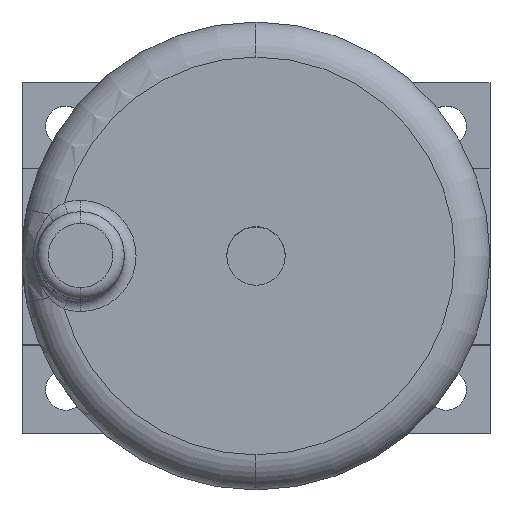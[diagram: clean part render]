
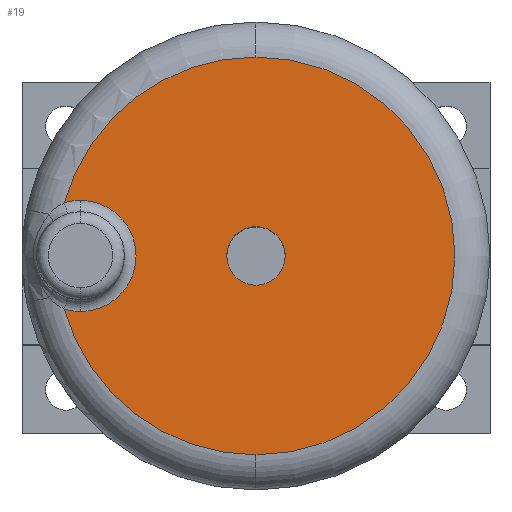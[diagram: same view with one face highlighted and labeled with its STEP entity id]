
A CAD part, top view. The second image highlights one B-rep face of the part: STEP entity #19.
In plain terms, the highlighted planar face has unit normal (0, 0, 1) as drawn and (1, 0, 0) by its records, which use the part's own axes.
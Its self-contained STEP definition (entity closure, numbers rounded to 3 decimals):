
#19 = ADVANCED_FACE ( 'NONE', ( #1028, #1943 ), #2560, .F. ) ;
#21 = DIRECTION ( 'NONE',  ( 0., 0., 1. ) ) ;
#32 = CARTESIAN_POINT ( 'NONE',  ( 46., 30., 0. ) ) ;
#112 = CARTESIAN_POINT ( 'NONE',  ( 46., 0., 0. ) ) ;
#139 = CARTESIAN_POINT ( 'NONE',  ( 46., 30., 0. ) ) ;
#198 = DIRECTION ( 'NONE',  ( 0., 0., 1. ) ) ;
#232 = DIRECTION ( 'NONE',  ( 1., 0., 0. ) ) ;
#351 = DIRECTION ( 'NONE',  ( -1., 0., 0. ) ) ;
#381 = DIRECTION ( 'NONE',  ( 0., 0., 1. ) ) ;
#405 = ORIENTED_EDGE ( 'NONE', *, *, #2558, .T. ) ;
#570 = ORIENTED_EDGE ( 'NONE', *, *, #1377, .F. ) ;
#618 = CARTESIAN_POINT ( 'NONE',  ( 46., 0., 0. ) ) ;
#645 = DIRECTION ( 'NONE',  ( -1., 0., 0. ) ) ;
#653 = DIRECTION ( 'NONE',  ( 1., 0., 0. ) ) ;
#671 = DIRECTION ( 'NONE',  ( 1., 0., 0. ) ) ;
#718 = EDGE_CURVE ( 'NONE', #2025, #2549, #2645, .T. ) ;
#729 = VERTEX_POINT ( 'NONE', #1030 ) ;
#831 = AXIS2_PLACEMENT_3D ( 'NONE', #32, #2473, #1489 ) ;
#856 = EDGE_LOOP ( 'NONE', ( #570, #1089 ) ) ;
#879 = CIRCLE ( 'NONE', #2131, 5. ) ;
#916 = CIRCLE ( 'NONE', #1528, 9.5 ) ;
#981 = AXIS2_PLACEMENT_3D ( 'NONE', #112, #351, #2070 ) ;
#996 = CARTESIAN_POINT ( 'NONE',  ( 46., 30., 9.5 ) ) ;
#1028 = FACE_OUTER_BOUND ( 'NONE', #2351, .T. ) ;
#1030 = CARTESIAN_POINT ( 'NONE',  ( 46., 32.763, 9.089 ) ) ;
#1089 = ORIENTED_EDGE ( 'NONE', *, *, #2999, .F. ) ;
#1094 = CARTESIAN_POINT ( 'NONE',  ( 46., 0., 5. ) ) ;
#1114 = CARTESIAN_POINT ( 'NONE',  ( 46., 0., 0. ) ) ;
#1116 = CIRCLE ( 'NONE', #1915, 9.5 ) ;
#1144 = AXIS2_PLACEMENT_3D ( 'NONE', #2620, #671, #2369 ) ;
#1156 = EDGE_CURVE ( 'NONE', #2987, #2646, #1690, .T. ) ;
#1198 = AXIS2_PLACEMENT_3D ( 'NONE', #1114, #2325, #2086 ) ;
#1336 = CARTESIAN_POINT ( 'NONE',  ( 46., 0., -5. ) ) ;
#1377 = EDGE_CURVE ( 'NONE', #2777, #1863, #879, .T. ) ;
#1399 = ORIENTED_EDGE ( 'NONE', *, *, #718, .T. ) ;
#1489 = DIRECTION ( 'NONE',  ( 0., 0., 1. ) ) ;
#1490 = DIRECTION ( 'NONE',  ( -1., 0., 0. ) ) ;
#1528 = AXIS2_PLACEMENT_3D ( 'NONE', #139, #645, #381 ) ;
#1572 = CARTESIAN_POINT ( 'NONE',  ( 46., 0., -34. ) ) ;
#1690 = CIRCLE ( 'NONE', #1144, 34. ) ;
#1863 = VERTEX_POINT ( 'NONE', #1094 ) ;
#1915 = AXIS2_PLACEMENT_3D ( 'NONE', #2930, #1490, #21 ) ;
#1943 = FACE_BOUND ( 'NONE', #856, .T. ) ;
#2025 = VERTEX_POINT ( 'NONE', #2905 ) ;
#2070 = DIRECTION ( 'NONE',  ( 0., 0., 1. ) ) ;
#2086 = DIRECTION ( 'NONE',  ( 0., 0., -1. ) ) ;
#2094 = ORIENTED_EDGE ( 'NONE', *, *, #2366, .T. ) ;
#2131 = AXIS2_PLACEMENT_3D ( 'NONE', #2674, #232, #2194 ) ;
#2150 = CARTESIAN_POINT ( 'NONE',  ( 46., 0., 34. ) ) ;
#2154 = ORIENTED_EDGE ( 'NONE', *, *, #2304, .T. ) ;
#2179 = VERTEX_POINT ( 'NONE', #2150 ) ;
#2194 = DIRECTION ( 'NONE',  ( 0., 0., -1. ) ) ;
#2229 = CIRCLE ( 'NONE', #2801, 34. ) ;
#2272 = EDGE_CURVE ( 'NONE', #2179, #2987, #2229, .T. ) ;
#2304 = EDGE_CURVE ( 'NONE', #2646, #2025, #916, .T. ) ;
#2325 = DIRECTION ( 'NONE',  ( 1., 0., 0. ) ) ;
#2351 = EDGE_LOOP ( 'NONE', ( #2094, #2675, #2642, #2154, #1399, #405 ) ) ;
#2366 = EDGE_CURVE ( 'NONE', #729, #2179, #2463, .T. ) ;
#2369 = DIRECTION ( 'NONE',  ( 0., 0., 1. ) ) ;
#2463 = CIRCLE ( 'NONE', #3084, 34. ) ;
#2473 = DIRECTION ( 'NONE',  ( -1., 0., 0. ) ) ;
#2549 = VERTEX_POINT ( 'NONE', #996 ) ;
#2558 = EDGE_CURVE ( 'NONE', #2549, #729, #1116, .T. ) ;
#2560 = PLANE ( 'NONE',  #981 ) ;
#2614 = DIRECTION ( 'NONE',  ( 1., 0., 0. ) ) ;
#2620 = CARTESIAN_POINT ( 'NONE',  ( 46., 0., 0. ) ) ;
#2642 = ORIENTED_EDGE ( 'NONE', *, *, #1156, .T. ) ;
#2645 = CIRCLE ( 'NONE', #831, 9.5 ) ;
#2646 = VERTEX_POINT ( 'NONE', #2732 ) ;
#2674 = CARTESIAN_POINT ( 'NONE',  ( 46., 0., 0. ) ) ;
#2675 = ORIENTED_EDGE ( 'NONE', *, *, #2272, .T. ) ;
#2732 = CARTESIAN_POINT ( 'NONE',  ( 46., 32.763, -9.089 ) ) ;
#2777 = VERTEX_POINT ( 'NONE', #1336 ) ;
#2779 = CIRCLE ( 'NONE', #1198, 5. ) ;
#2801 = AXIS2_PLACEMENT_3D ( 'NONE', #618, #653, #2802 ) ;
#2802 = DIRECTION ( 'NONE',  ( 0., 0., 1. ) ) ;
#2905 = CARTESIAN_POINT ( 'NONE',  ( 46., 30., -9.5 ) ) ;
#2930 = CARTESIAN_POINT ( 'NONE',  ( 46., 30., 0. ) ) ;
#2987 = VERTEX_POINT ( 'NONE', #1572 ) ;
#2999 = EDGE_CURVE ( 'NONE', #1863, #2777, #2779, .T. ) ;
#3081 = CARTESIAN_POINT ( 'NONE',  ( 46., 0., 0. ) ) ;
#3084 = AXIS2_PLACEMENT_3D ( 'NONE', #3081, #2614, #198 ) ;
